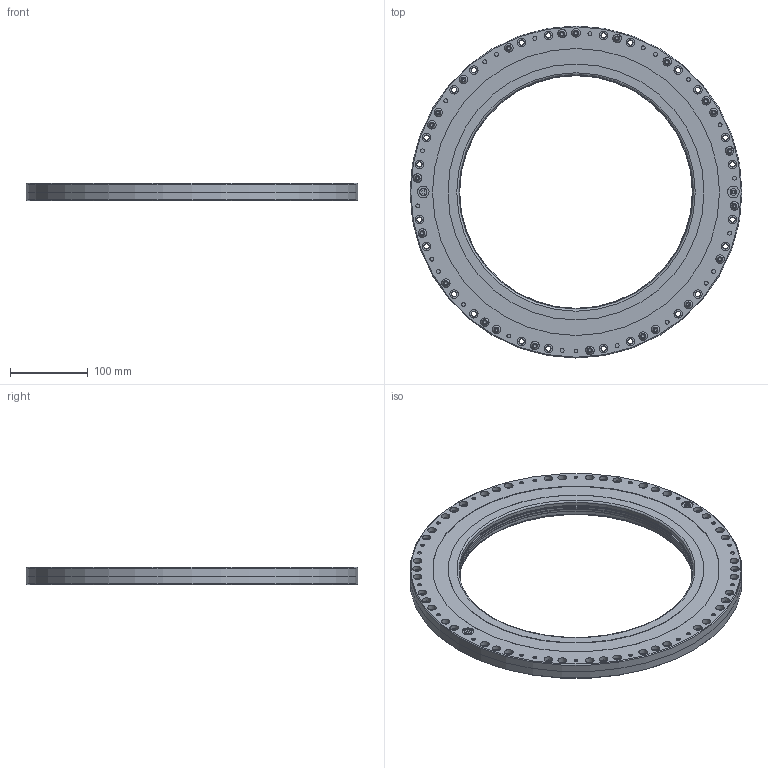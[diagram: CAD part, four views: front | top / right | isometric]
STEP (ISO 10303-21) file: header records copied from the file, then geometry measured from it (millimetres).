
FILE_DESCRIPTION(/* description */ ('Unknown'),/* implementation_level */ '2;1');
FILE_NAME(/* name */ '10103274_RC 300 N_4bar',/* time_stamp */ '2024-12-19T12:40:03+01:00',/* author */ ('Unknown'),/* organization */ ('Unknown'),/* preprocessor_version */ 'ST-DEVELOPER v19.4',/* originating_system */ 'Solid Edge',/* authorisation */ 'Unknown');
FILE_SCHEMA (('AUTOMOTIVE_DESIGN {1 0 10303 214 3 1 1}'));
Length unit declared in the file: millimetre
Products named in the file (7): 10103274; Linsenkopfschraube ISO 7380 TX M6 x 14 Ph 012.9; 34-00-0034-E001; 34-06-0051-E001; 34-06-0064-E001; Gewindestift DIN 913 - M6x4 VA; Verschlussschraube G1;8 x 4,5
Assembly tree (54 placements, depth 2):
  10103274
    Linsenkopfschraube ISO 7380 TX M6 x 14 Ph 012.9  x46
    34-00-0034-E001  x2
    34-06-0051-E001
    34-06-0064-E001
    Gewindestift DIN 913 - M6x4 VA
    Verschlussschraube G1;8 x 4,5  x3
Bounding box: 428 x 428 x 22.4 mm (x, y, z)
Volume: 1494430.7 mm3; surface area: 402083.8 mm2
Topology: 54 solids, 54 shells, 2427 faces, 5802 edges, 3621 vertices
Faces by surface type: cylinder 1495, cone 394, plane 301, torus 191, sphere 46
Full cylindrical faces by diameter (mm): 1.5 x5, 4.917 x47, 5.6 x46, 6 x94, 6.8 x95, 7.4 x1, 8.4 x1, 8.566 x4, 9.728 x4, 10.5 x46, 11 x96, 15 x4, 300 x2, 305 x2, 330 x2, 370 x2, 428 x2
Entity records: 12075 total; most frequent: CARTESIAN_POINT 2717, DIRECTION 1448, ORIENTED_EDGE 1144, FACE_BOUND 708, EDGE_LOOP 706, AXIS2_PLACEMENT_3D 673, EDGE_CURVE 572, VERTEX_POINT 470
